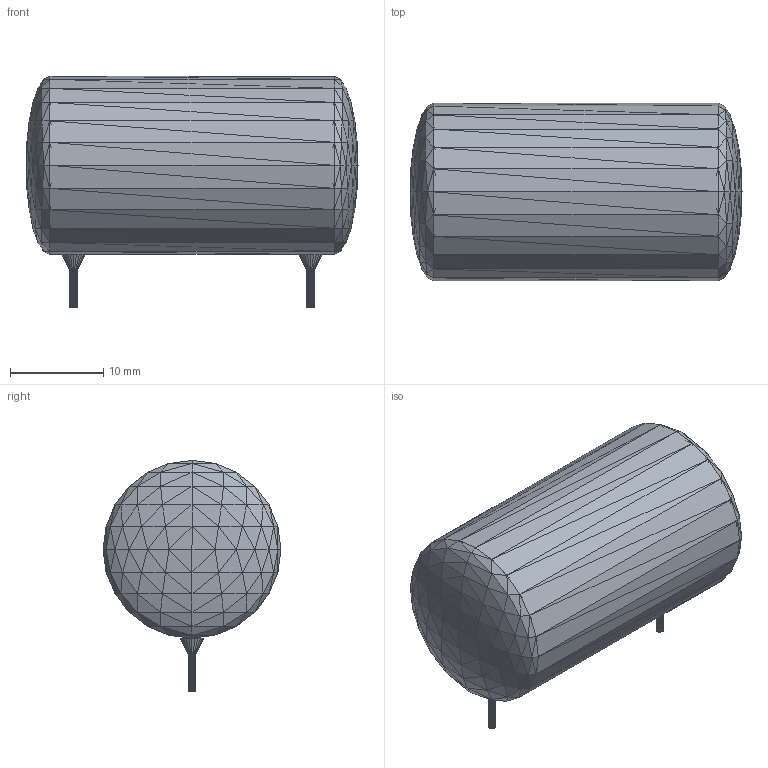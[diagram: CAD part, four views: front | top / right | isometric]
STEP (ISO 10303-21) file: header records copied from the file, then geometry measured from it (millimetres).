
FILE_DESCRIPTION(('HOOPS Exchange Step'),'2;1');
FILE_NAME('***.stp');
FILE_SCHEMA( ('AP242_MANAGED_MODEL_BASED_3D_ENGINEERING_MIM_LF {1 0 10303 442 1 1 4 }') );
Length unit declared in the file: inch
Products named in the file (8): CAPORGXLGNF_2; CAPORGXLGNF_3; CAPORGXLGNF_4; CAPORGXLGNF_5; CAPORGXLGNF_6; CAPORGXLGNF_7; CAPORGXLGNF_8; CAPORGXLGNF
Assembly tree (7 placements, depth 2):
  CAPORGXLGNF
    CAPORGXLGNF_2
    CAPORGXLGNF_3
    CAPORGXLGNF_4
    CAPORGXLGNF_5
    CAPORGXLGNF_6
    CAPORGXLGNF_7
    CAPORGXLGNF_8
Bounding box: 35.56 x 19.05 x 24.77 mm (x, y, z)
Surface area: 7446 mm2 (no closed solid volume)
Topology: 0 solids, 1920 shells, 1920 faces, 1440 edges, 494 vertices
Faces by surface type: plane 1920
Entity records: 29644 total; most frequent: ORIENTED_EDGE 5760, DIRECTION 5312, CARTESIAN_POINT 3870, AXIS2_PLACEMENT_3D 1936, PLANE 1920, EDGE_LOOP 1920, FACE_BOUND 1920, ADVANCED_FACE 1920
